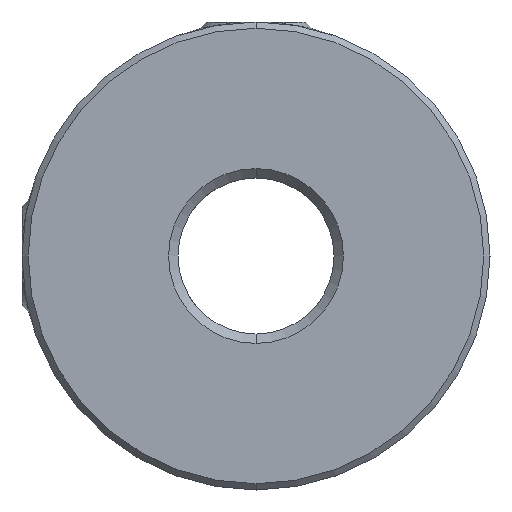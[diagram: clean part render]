
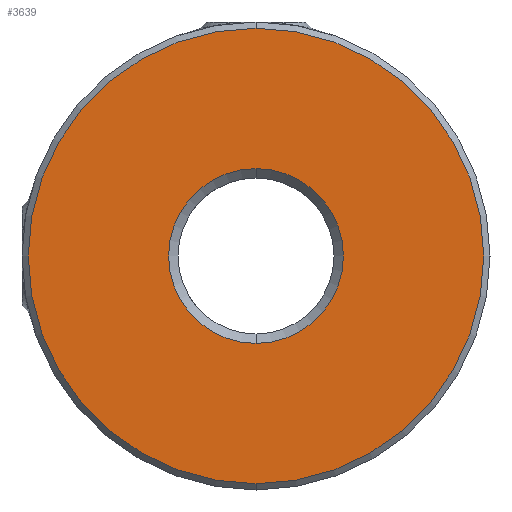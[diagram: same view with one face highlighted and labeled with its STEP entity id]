
A CAD part, front view. The second image highlights one B-rep face of the part: STEP entity #3639.
In plain terms, the highlighted planar face has unit normal (0, -1, 0).
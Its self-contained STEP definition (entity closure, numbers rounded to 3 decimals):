
#47 = VERTEX_POINT ( 'NONE', #3247 ) ;
#52 = DIRECTION ( 'NONE',  ( -1., 0., 0. ) ) ;
#56 = EDGE_CURVE ( 'NONE', #5767, #1602, #6048, .T. ) ;
#104 = AXIS2_PLACEMENT_3D ( 'NONE', #857, #6155, #1833 ) ;
#561 = FACE_BOUND ( 'NONE', #4300, .T. ) ;
#857 = CARTESIAN_POINT ( 'NONE',  ( 0., -4.7, 0. ) ) ;
#958 = EDGE_CURVE ( 'NONE', #1602, #5767, #3834, .T. ) ;
#962 = CARTESIAN_POINT ( 'NONE',  ( 0., -4.7, -2.8 ) ) ;
#1515 = DIRECTION ( 'NONE',  ( 0., 1., 0. ) ) ;
#1602 = VERTEX_POINT ( 'NONE', #6015 ) ;
#1833 = DIRECTION ( 'NONE',  ( 0., 0., 1. ) ) ;
#1971 = ORIENTED_EDGE ( 'NONE', *, *, #6137, .F. ) ;
#2087 = CIRCLE ( 'NONE', #3991, 7.3 ) ;
#2089 = EDGE_LOOP ( 'NONE', ( #1971, #4182 ) ) ;
#2116 = EDGE_CURVE ( 'NONE', #47, #4393, #5046, .T. ) ;
#2343 = DIRECTION ( 'NONE',  ( 0., 1., 0. ) ) ;
#2505 = CARTESIAN_POINT ( 'NONE',  ( 0., -4.7, 0. ) ) ;
#2841 = DIRECTION ( 'NONE',  ( 0., 0., 1. ) ) ;
#2960 = CARTESIAN_POINT ( 'NONE',  ( 0., -4.7, 7.3 ) ) ;
#3164 = ORIENTED_EDGE ( 'NONE', *, *, #56, .T. ) ;
#3247 = CARTESIAN_POINT ( 'NONE',  ( 0., -4.7, -7.3 ) ) ;
#3452 = DIRECTION ( 'NONE',  ( 0., -1., 0. ) ) ;
#3639 = ADVANCED_FACE ( 'NONE', ( #6184, #561 ), #4430, .T. ) ;
#3756 = CARTESIAN_POINT ( 'NONE',  ( 0., -4.7, 0. ) ) ;
#3827 = AXIS2_PLACEMENT_3D ( 'NONE', #3756, #2343, #2841 ) ;
#3834 = CIRCLE ( 'NONE', #5852, 2.8 ) ;
#3991 = AXIS2_PLACEMENT_3D ( 'NONE', #5829, #1515, #4911 ) ;
#4182 = ORIENTED_EDGE ( 'NONE', *, *, #2116, .F. ) ;
#4300 = EDGE_LOOP ( 'NONE', ( #5081, #3164 ) ) ;
#4393 = VERTEX_POINT ( 'NONE', #2960 ) ;
#4430 = PLANE ( 'NONE',  #5166 ) ;
#4479 = DIRECTION ( 'NONE',  ( 0., 0., 1. ) ) ;
#4911 = DIRECTION ( 'NONE',  ( 0., 0., 1. ) ) ;
#5046 = CIRCLE ( 'NONE', #3827, 7.3 ) ;
#5081 = ORIENTED_EDGE ( 'NONE', *, *, #958, .T. ) ;
#5166 = AXIS2_PLACEMENT_3D ( 'NONE', #2505, #3452, #52 ) ;
#5333 = CARTESIAN_POINT ( 'NONE',  ( 0., -4.7, 0. ) ) ;
#5452 = DIRECTION ( 'NONE',  ( 0., 1., 0. ) ) ;
#5767 = VERTEX_POINT ( 'NONE', #962 ) ;
#5829 = CARTESIAN_POINT ( 'NONE',  ( 0., -4.7, 0. ) ) ;
#5852 = AXIS2_PLACEMENT_3D ( 'NONE', #5333, #5452, #4479 ) ;
#6015 = CARTESIAN_POINT ( 'NONE',  ( 0., -4.7, 2.8 ) ) ;
#6048 = CIRCLE ( 'NONE', #104, 2.8 ) ;
#6137 = EDGE_CURVE ( 'NONE', #4393, #47, #2087, .T. ) ;
#6155 = DIRECTION ( 'NONE',  ( 0., 1., 0. ) ) ;
#6184 = FACE_OUTER_BOUND ( 'NONE', #2089, .T. ) ;
